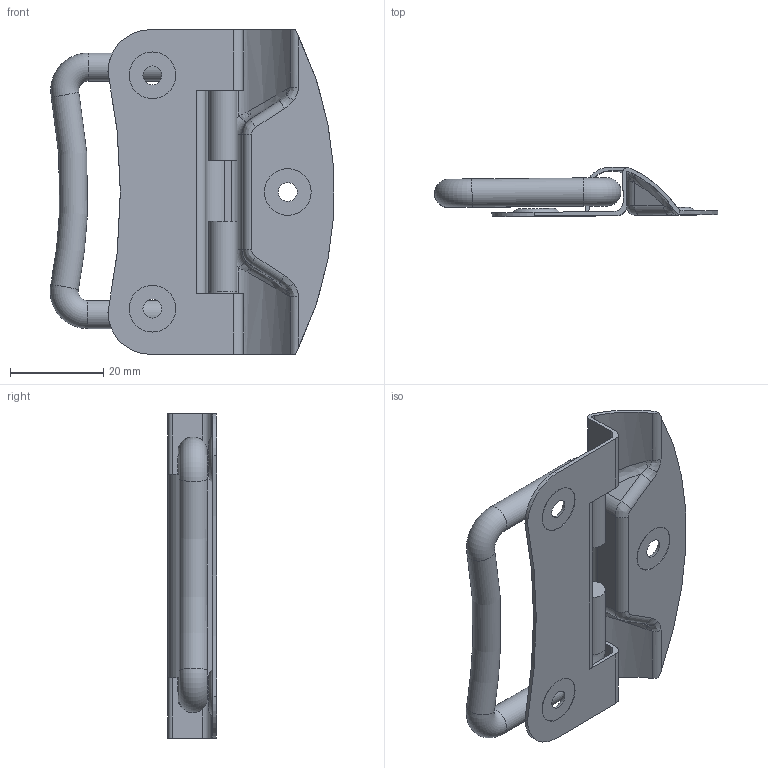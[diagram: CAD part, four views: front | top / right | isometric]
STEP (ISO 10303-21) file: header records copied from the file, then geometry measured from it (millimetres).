
FILE_DESCRIPTION(/* description */ (''),/* implementation_level */ '2;1');
FILE_NAME(/* name */ '\\NAS\db20\A-FS6\DR_A-FS6.stp',/* time_stamp */ '2017-07-14T16:53:42+09:00',/* author */ ('user'),/* organization */ (''),/* preprocessor_version */ 'ST-DEVELOPER v15.6',/* originating_system */ 'Autodesk Inventor 2015',/* authorisation */ '');
FILE_SCHEMA (('AUTOMOTIVE_DESIGN { 1 0 10303 214 3 1 1 }'));
Length unit declared in the file: millimetre
Products named in the file (3): DR_A-FS6-손잡이; DR_A-FS6
Bounding box: 60.71 x 10.57 x 69.5 mm (x, y, z)
Volume: 7607.6 mm3; surface area: 11197.8 mm2
Topology: 2 solids, 2 shells, 118 faces, 300 edges, 185 vertices
Faces by surface type: cylinder 46, plane 29, bspline 28, torus 15
Full cylindrical faces by diameter (mm): 6 x4, 10 x3
Entity records: 3953 total; most frequent: CARTESIAN_POINT 1188, DIRECTION 561, ORIENTED_EDGE 552, EDGE_CURVE 276, AXIS2_PLACEMENT_3D 233, VERTEX_POINT 179, EDGE_LOOP 145, CIRCLE 126
